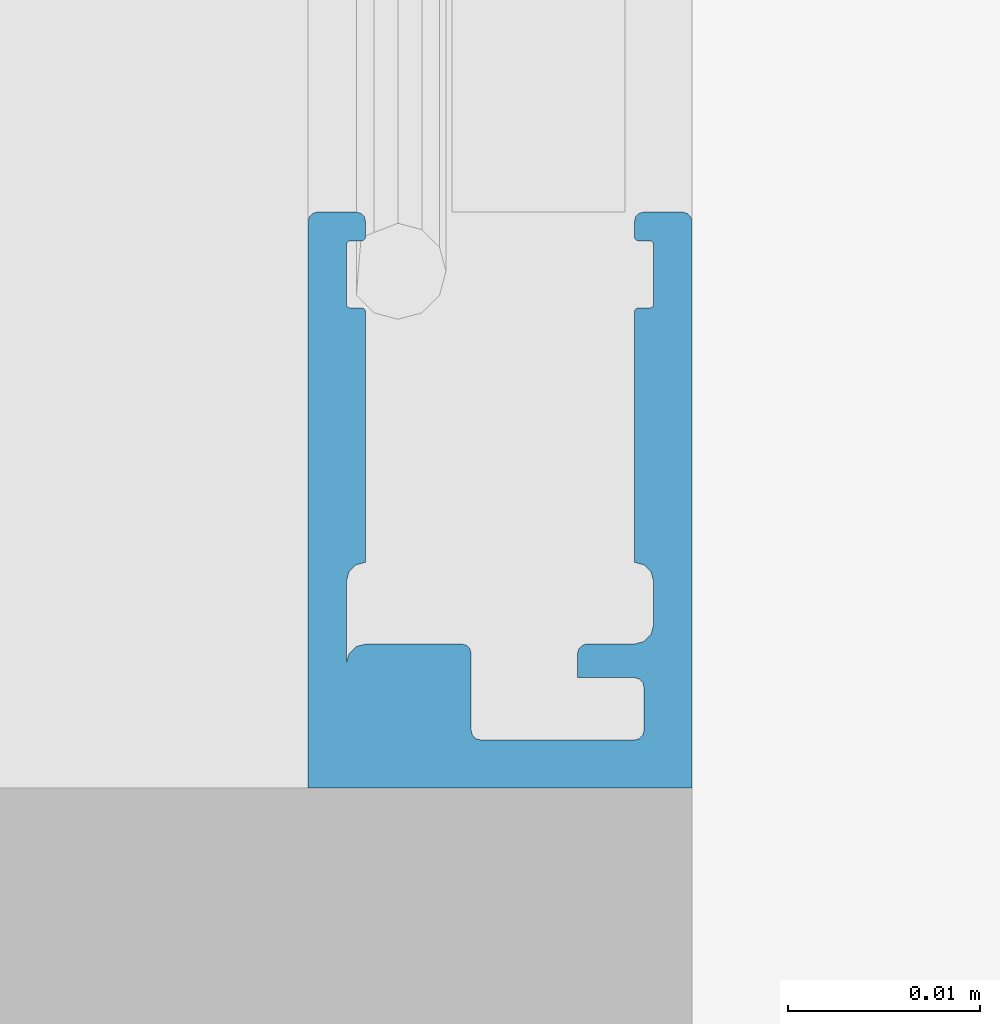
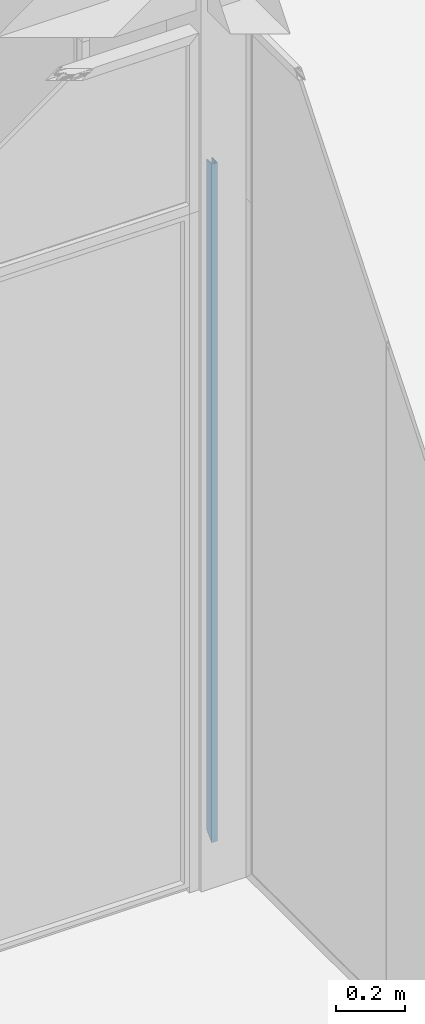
# One storey, part 68 of 387: 1 building element part, 2 elements without a shape of their own.
"""IFC2X3 building model written with IfcOpenShell, lengths in millimetres."""

from ifc_helpers import new_model, entity, si_unit, converted_unit, derived_unit, money_unit, direction, frame, origin_with_axes, place, context, subcontext, project, spatial, faceted_brep, source, transform, mapped, material, type_object, element, aggregate, save


model = new_model("IFC2X3")

# Units and contexts
model_context = context("Model", 3, precision=0.01, world=origin_with_axes(), true_north=direction((0.0, 1.0)))
body_context = subcontext(model_context, "Body", "Model", "MODEL_VIEW")
ifc_project = project(units=[si_unit("LENGTHUNIT", "METRE", prefix="MILLI"), si_unit("AREAUNIT", "SQUARE_METRE"), si_unit("VOLUMEUNIT", "CUBIC_METRE"), converted_unit("PLANEANGLEUNIT", "DEGREE", entity("IfcPlaneAngleMeasure", 0.0174532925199), si_unit("PLANEANGLEUNIT", "RADIAN"), dimensions=[0, 0, 0, 0, 0, 0, 0]), si_unit("SOLIDANGLEUNIT", "STERADIAN"), money_unit("EUR"), converted_unit("TIMEUNIT", "Year", entity("IfcTimeMeasure", 31556926.0), si_unit("TIMEUNIT", "SECOND"), dimensions=[0, 0, 1, 0, 0, 0, 0]), si_unit("MASSUNIT", "GRAM", prefix="KILO"), si_unit("THERMODYNAMICTEMPERATUREUNIT", "DEGREE_CELSIUS"), si_unit("LUMINOUSINTENSITYUNIT", "LUMEN"), si_unit("ENERGYUNIT", "JOULE", prefix="MEGA"), derived_unit("THERMALCONDUCTANCEUNIT", [(si_unit("POWERUNIT", "WATT"), 1), (si_unit("LENGTHUNIT", "METRE"), -1), (si_unit("THERMODYNAMICTEMPERATUREUNIT", "KELVIN"), -1)]), derived_unit("SPECIFICHEATCAPACITYUNIT", [(si_unit("ENERGYUNIT", "JOULE"), 1), (si_unit("MASSUNIT", "GRAM", prefix="KILO"), -1), (si_unit("THERMODYNAMICTEMPERATUREUNIT", "KELVIN"), -1)]), derived_unit("MASSDENSITYUNIT", [(si_unit("MASSUNIT", "GRAM", prefix="KILO"), 1), (si_unit("VOLUMEUNIT", "CUBIC_METRE"), -1)])], contexts=[model_context])

# Site, building, storey
site_placement = place(None, origin_with_axes())
site = spatial("IfcSite", under=ifc_project, at=site_placement, Name="Puškini 31, Narva", CompositionType="ELEMENT")
building_placement = place(site_placement, origin_with_axes())
building = spatial("IfcBuilding", under=site, at=building_placement, Name="Narva Riigigümnaasium", CompositionType="ELEMENT")
storey_placement = place(building_placement, frame((0.0, 0.0, 2640.0), z_axis=(0.0, 0.0, 1.0), x_axis=(1.0, 0.0, 0.0)))
storey = spatial("IfcBuildingStorey", under=building, at=storey_placement, Name="2.korrus +2.64", CompositionType="ELEMENT", Elevation=2640.0)

# Curtain wall, member, building element part
curtain_wall_type = type_object("IfcCurtainWallType", Name="Curtain Wall Type", PredefinedType="NOTDEFINED")
curtain_wall_placement = place(storey_placement, frame((28390.0000001, 180299.973357, -0.00013048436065), z_axis=(0.0, 0.0, 1.0), x_axis=(1.0, 0.0, 0.0)))
curtain_wall = element("IfcCurtainWall", 1, at=curtain_wall_placement, inside=storey, type_object=curtain_wall_type, Name="G-SKLF-17")
member_type = type_object("IfcMemberType", Name="30 x 10", PredefinedType="MULLION")
member_placement = place(curtain_wall_placement, frame((0.0, -1170.00131434, 0.0), z_axis=(0.0, -4.78079201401e-09, 1.0), x_axis=(0.0, 1.0, 4.78079201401e-09)))
member = element("IfcMember", 2, at=member_placement, type_object=member_type, Name="G-SKLF-65-raam", ObjectType="MULLION")
aggregate(curtain_wall, [member])
ifc_material = material(Name="ET-04_Alumiinium")
shared_shape = source(origin_with_axes(), body_context, "Body", "Brep", [
    faceted_brep([(0.0, -9.99999999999, 0.0), (0.0, -9.99999999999, 2400.00000922), (0.0, 9.99999999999, 2400.00000922), (0.0, 9.99999999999, 0.0), (29.4424074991, -9.99999999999, 29.4424074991), (29.4424074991, -9.99999999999, 2400.00000922), (29.7157683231, -9.95182408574, 2400.00000922), (29.9224245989, -9.76651288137, 2400.00000922), (30.0, -9.5, 2400.00000922), (30.0, -7.49999999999, 2400.00000922), (29.9330127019, -7.24999999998, 2400.00000922), (29.75, -7.06698729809, 2400.00000922), (29.5, -6.99999999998, 2400.00000922), (28.7, -6.99999999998, 2400.00000922), (28.6, -7.02679491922, 2400.00000922), (28.5267949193, -7.09999999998, 2400.00000922), (28.5, -7.19999999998, 2400.00000922), (28.5, -7.79999999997, 2400.00000922), (28.4732050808, -7.89999999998, 2400.00000922), (28.4, -7.97320508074, 2400.00000922), (28.3, -7.99999999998, 2400.00000922), (25.2, -7.99999999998, 2400.00000922), (25.1, -7.97320508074, 2400.00000922), (25.0267949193, -7.89999999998, 2400.00000922), (25.0, -7.79999999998, 2400.00000922), (25.0, -7.20000000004, 2400.00000922), (24.9732050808, -7.10000000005, 2400.00000922), (24.9, -7.02679491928, 2400.00000922), (24.8, -7.00000000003, 2400.00000922), (11.7527616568, -6.99999999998, 2400.00000922), (11.6187870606, -7.49999999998, 2400.00000922), (11.2527616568, -7.86602540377, 2400.00000922), (10.7527616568, -7.99999999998, 2400.00000922), (8.49999999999, -8.00000000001, 2400.00000922), (7.99999999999, -7.86602540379, 2400.00000922), (7.63397459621, -7.50000000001, 2400.00000922), (7.49999999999, -7.00000000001, 2400.00000922), (7.49999999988, -4.5336921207, 2400.00000922), (7.43301270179, -4.28369212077, 2400.00000922), (7.24999999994, -4.10067941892, 2400.00000922), (7.0, -4.03369212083, 2400.00000922), (5.74723834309, -4.03369212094, 2400.00000922), (5.7472383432, -6.99999999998, 2400.00000922), (5.6802510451, -7.24999999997, 2400.00000922), (5.49723834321, -7.43301270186, 2400.00000922), (5.24723834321, -7.49999999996, 2400.00000922), (3.0, -7.49999999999, 2400.00000922), (2.75, -7.43301270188, 2400.00000922), (2.56698729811, -7.24999999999, 2400.00000922), (2.5, -6.99999999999, 2400.00000922), (2.5, 1.00339466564, 2400.00000922), (2.56811176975, 1.25195735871, 2400.00000922), (2.75096907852, 1.43357737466, 2400.00000922), (2.99998847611, 1.50000000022, 2400.00000922), (6.99999999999, 1.50000000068, 2400.00000922), (7.24999999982, 1.56698729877, 2400.00000922), (7.43301270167, 1.75000000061, 2400.00000922), (7.49999999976, 2.00000000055, 2400.00000922), (7.49999999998, 6.99999999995, 2400.00000922), (7.36602540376, 7.49999999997, 2400.00000922), (6.99999999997, 7.86602540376, 2400.00000922), (6.49999999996, 7.99999999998, 2400.00000922), (10.7527616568, 7.99999999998, 2400.00000922), (11.2527616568, 7.86602540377, 2400.00000922), (11.6187870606, 7.49999999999, 2400.00000922), (11.7527616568, 6.99999999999, 2400.00000922), (24.8, 7.00000000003, 2400.00000922), (24.9, 7.02679491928, 2400.00000922), (24.9732050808, 7.10000000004, 2400.00000922), (25.0, 7.20000000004, 2400.00000922), (25.0, 7.8, 2400.00000922), (25.0267949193, 7.90000000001, 2400.00000922), (25.1, 7.97320508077, 2400.00000922), (25.2, 8.00000000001, 2400.00000922), (28.3, 8.00000000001, 2400.00000922), (28.4104265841, 7.9658128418, 2400.00000922), (28.4849473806, 7.87744178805, 2400.00000922), (28.5, 7.76282847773, 2400.00000922), (28.5, 7.24760028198, 2400.00000922), (28.5, 7.19999999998, 2400.00000922), (28.5267949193, 7.09999999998, 2400.00000922), (28.6, 7.02679491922, 2400.00000922), (28.7, 6.99999999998, 2400.00000922), (28.7609519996, 6.99999999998, 2400.00000922), (29.5, 7.00000000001, 2400.00000922), (29.75, 7.06698729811, 2400.00000922), (29.9330127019, 7.24999999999, 2400.00000922), (30.0, 7.49999999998, 2400.00000922), (30.0, 9.5, 2400.00000922), (29.9330127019, 9.75000000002, 2400.00000922), (29.75, 9.93301270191, 2400.00000922), (29.5, 10.0, 2400.00000922), (29.5, 10.0, 29.5), (29.75, 9.93301270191, 29.75), (29.9330127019, 9.75000000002, 29.9330127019), (30.0, 9.5, 30.0), (30.0, 7.49999999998, 30.0), (29.9330127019, 7.24999999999, 29.9330127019), (29.75, 7.06698729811, 29.75), (29.5, 7.00000000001, 29.5), (28.7609519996, 6.99999999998, 28.7609519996), (28.7, 6.99999999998, 28.7), (28.6, 7.02679491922, 28.6), (28.5267949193, 7.09999999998, 28.5267949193), (28.5, 7.19999999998, 28.5), (28.5, 7.24760028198, 28.5), (28.5, 7.76282847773, 28.5), (28.4849473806, 7.87744178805, 28.4849473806), (28.4104265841, 7.9658128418, 28.4104265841), (28.3, 8.00000000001, 28.3), (25.2, 8.00000000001, 25.2), (25.1, 7.97320508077, 25.1), (25.0267949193, 7.90000000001, 25.0267949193), (25.0, 7.8, 25.0), (25.0, 7.20000000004, 25.0), (24.9732050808, 7.10000000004, 24.9732050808), (24.9, 7.02679491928, 24.9), (24.8, 7.00000000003, 24.8), (11.7527616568, 6.99999999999, 11.7527616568), (11.6187870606, 7.49999999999, 11.6187870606), (11.2527616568, 7.86602540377, 11.2527616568), (10.7527616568, 7.99999999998, 10.7527616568), (6.49999999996, 7.99999999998, 6.49999999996), (6.99999999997, 7.86602540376, 6.99999999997), (7.36602540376, 7.49999999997, 7.36602540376), (7.49999999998, 6.99999999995, 7.49999999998), (7.49999999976, 2.00000000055, 7.49999999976), (7.43301270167, 1.75000000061, 7.43301270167), (7.24999999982, 1.56698729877, 7.24999999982), (6.99999999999, 1.50000000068, 6.99999999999), (2.99998847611, 1.50000000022, 2.99998847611), (2.75096907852, 1.43357737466, 2.75096907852), (2.56811176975, 1.25195735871, 2.56811176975), (2.5, 1.00339466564, 2.5), (2.5, -6.99999999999, 2.5), (2.56698729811, -7.24999999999, 2.56698729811), (2.75, -7.43301270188, 2.75), (3.0, -7.49999999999, 3.0), (5.24723834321, -7.49999999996, 5.24723834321), (5.49723834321, -7.43301270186, 5.49723834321), (5.6802510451, -7.24999999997, 5.6802510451), (5.7472383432, -6.99999999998, 5.7472383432), (5.74723834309, -4.03369212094, 5.74723834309), (7.0, -4.03369212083, 7.0), (7.24999999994, -4.10067941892, 7.24999999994), (7.43301270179, -4.28369212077, 7.43301270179), (7.49999999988, -4.5336921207, 7.49999999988), (7.49999999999, -7.00000000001, 7.49999999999), (7.63397459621, -7.50000000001, 7.63397459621), (7.99999999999, -7.86602540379, 7.99999999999), (8.49999999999, -8.00000000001, 8.49999999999), (10.7527616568, -7.99999999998, 10.7527616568), (11.2527616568, -7.86602540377, 11.2527616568), (11.6187870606, -7.49999999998, 11.6187870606), (11.7527616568, -6.99999999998, 11.7527616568), (24.8, -7.00000000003, 24.8), (24.9, -7.02679491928, 24.9), (24.9732050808, -7.10000000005, 24.9732050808), (25.0, -7.20000000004, 25.0), (25.0, -7.79999999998, 25.0), (25.0267949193, -7.89999999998, 25.0267949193), (25.1, -7.97320508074, 25.1), (25.2, -7.99999999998, 25.2), (28.3, -7.99999999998, 28.3), (28.4, -7.97320508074, 28.4), (28.4732050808, -7.89999999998, 28.4732050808), (28.5, -7.79999999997, 28.5), (28.5, -7.19999999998, 28.5), (28.5267949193, -7.09999999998, 28.5267949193), (28.6, -7.02679491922, 28.6), (28.7, -6.99999999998, 28.7), (29.5, -6.99999999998, 29.5), (29.75, -7.06698729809, 29.75), (29.9330127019, -7.24999999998, 29.9330127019), (30.0, -7.49999999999, 30.0), (30.0, -9.5, 30.0), (29.9224245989, -9.76651288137, 29.9224245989), (29.7157683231, -9.95182408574, 29.7157683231)], [[[0, 1, 2, 3]], [[4, 5, 1, 0]], [[2, 1, 5, 6, 7, 8, 9, 10, 11, 12, 13, 14, 15, 16, 17, 18, 19, 20, 21, 22, 23, 24, 25, 26, 27, 28, 29, 30, 31, 32, 33, 34, 35, 36, 37, 38, 39, 40, 41, 42, 43, 44, 45, 46, 47, 48, 49, 50, 51, 52, 53, 54, 55, 56, 57, 58, 59, 60, 61, 62, 63, 64, 65, 66, 67, 68, 69, 70, 71, 72, 73, 74, 75, 76, 77, 78, 79, 80, 81, 82, 83, 84, 85, 86, 87, 88, 89, 90, 91]], [[3, 2, 91, 92]], [[3, 92, 93, 94, 95, 96, 97, 98, 99, 100, 101, 102, 103, 104, 105, 106, 107, 108, 109, 110, 111, 112, 113, 114, 115, 116, 117, 118, 119, 120, 121, 122, 123, 124, 125, 126, 127, 128, 129, 130, 131, 132, 133, 134, 135, 136, 137, 138, 139, 140, 141, 142, 143, 144, 145, 146, 147, 148, 149, 150, 151, 152, 153, 154, 155, 156, 157, 158, 159, 160, 161, 162, 163, 164, 165, 166, 167, 168, 169, 170, 171, 172, 173, 174, 175, 176, 177, 4, 0]], [[177, 6, 5, 4]], [[176, 7, 6, 177]], [[175, 8, 7, 176]], [[174, 9, 8, 175]], [[173, 10, 9, 174]], [[172, 11, 10, 173]], [[171, 12, 11, 172]], [[170, 13, 12, 171]], [[169, 14, 13, 170]], [[168, 15, 14, 169]], [[167, 16, 15, 168]], [[166, 17, 16, 167]], [[165, 18, 17, 166]], [[164, 19, 18, 165]], [[163, 20, 19, 164]], [[162, 21, 20, 163]], [[161, 22, 21, 162]], [[160, 23, 22, 161]], [[159, 24, 23, 160]], [[158, 25, 24, 159]], [[157, 26, 25, 158]], [[156, 27, 26, 157]], [[155, 28, 27, 156]], [[154, 29, 28, 155]], [[153, 30, 29, 154]], [[152, 31, 30, 153]], [[151, 32, 31, 152]], [[150, 33, 32, 151]], [[149, 34, 33, 150]], [[148, 35, 34, 149]], [[147, 36, 35, 148]], [[146, 37, 36, 147]], [[145, 38, 37, 146]], [[144, 39, 38, 145]], [[143, 40, 39, 144]], [[142, 41, 40, 143]], [[141, 42, 41, 142]], [[140, 43, 42, 141]], [[139, 44, 43, 140]], [[138, 45, 44, 139]], [[137, 46, 45, 138]], [[136, 47, 46, 137]], [[135, 48, 47, 136]], [[134, 49, 48, 135]], [[133, 50, 49, 134]], [[132, 51, 50, 133]], [[131, 52, 51, 132]], [[130, 53, 52, 131]], [[129, 54, 53, 130]], [[128, 55, 54, 129]], [[127, 56, 55, 128]], [[126, 57, 56, 127]], [[125, 58, 57, 126]], [[124, 59, 58, 125]], [[123, 60, 59, 124]], [[122, 61, 60, 123]], [[121, 62, 61, 122]], [[120, 63, 62, 121]], [[119, 64, 63, 120]], [[118, 65, 64, 119]], [[117, 66, 65, 118]], [[116, 67, 66, 117]], [[115, 68, 67, 116]], [[114, 69, 68, 115]], [[113, 70, 69, 114]], [[112, 71, 70, 113]], [[111, 72, 71, 112]], [[110, 73, 72, 111]], [[109, 74, 73, 110]], [[108, 75, 74, 109]], [[107, 76, 75, 108]], [[106, 77, 76, 107]], [[105, 78, 77, 106]], [[104, 79, 78, 105]], [[103, 80, 79, 104]], [[102, 81, 80, 103]], [[101, 82, 81, 102]], [[100, 83, 82, 101]], [[99, 84, 83, 100]], [[98, 85, 84, 99]], [[97, 86, 85, 98]], [[96, 87, 86, 97]], [[95, 88, 87, 96]], [[94, 89, 88, 95]], [[93, 90, 89, 94]], [[92, 91, 90, 93]]]),
])
building_element_part_placement = place(member_placement, origin_with_axes())
building_element_part = element("IfcBuildingElementPart", 3, at=building_element_part_placement, material=ifc_material, Name="ET-04_Alumiinium", context=body_context, shape_type="MappedRepresentation", body=[
    mapped(shared_shape, transform((0.0, 0.0, 0.0))),
])
aggregate(member, [building_element_part])

save(model, "model.ifc")
